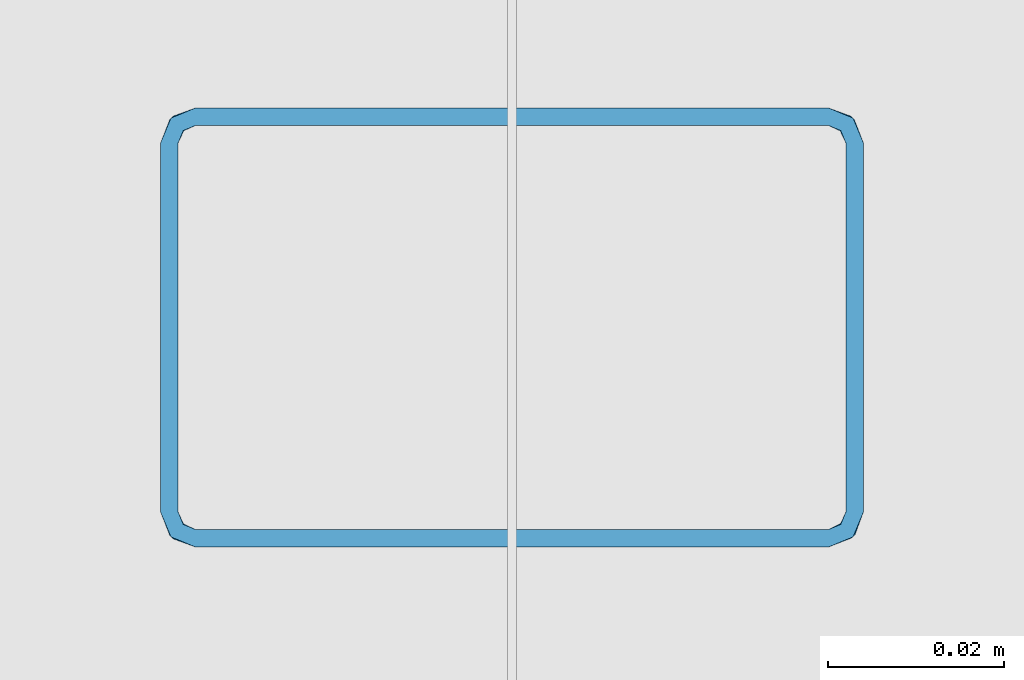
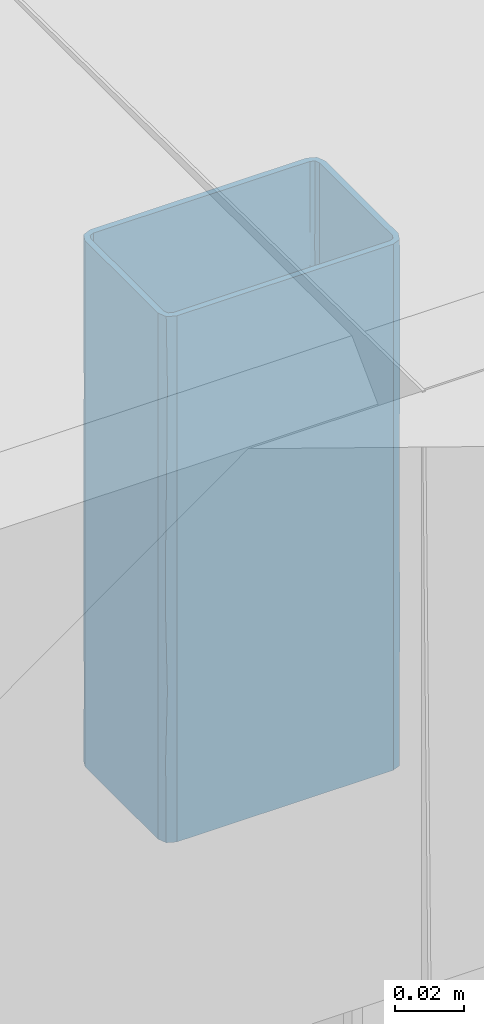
# One storey, part 150 of 186: 1 beam.
"""IFC4X3_ADD2 building model written with IfcOpenShell, lengths in millimetres."""

from ifc_helpers import new_model, si_unit, direction, frame, origin_with_axes, place, context, subcontext, project, spatial, polygons, element, save


model = new_model("IFC4X3_ADD2")

# Units and contexts
model_context = context("Model", 3, precision=1e-05, world=origin_with_axes(), true_north=direction((0.0, 1.0)))
body_context = subcontext(model_context, "Body", "Model", "MODEL_VIEW")
ifc_project = project(units=[si_unit("LENGTHUNIT", "METRE", prefix="MILLI"), si_unit("AREAUNIT", "SQUARE_METRE"), si_unit("VOLUMEUNIT", "CUBIC_METRE"), si_unit("PLANEANGLEUNIT", "RADIAN"), si_unit("TIMEUNIT", "SECOND"), si_unit("MASSUNIT", "GRAM")], contexts=[model_context])

# Site, building, storey
site_placement = place(None, origin_with_axes())
site = spatial("IfcSite", under=ifc_project, at=site_placement, Name="Site", CompositionType="ELEMENT")
building_placement = place(site_placement, origin_with_axes())
building = spatial("IfcBuilding", under=site, at=building_placement, Name="IFC Building Story")
storey_placement = place(building_placement, frame((0.0, 0.0, 4370.0), z_axis=(0.0, 0.0, 1.0), x_axis=(1.0, 0.0, 0.0)))
storey = spatial("IfcBuildingStorey", under=building, at=storey_placement, Name="ETAGE 10 (1)", Elevation=4370.0)

# Beam
beam_placement = place(storey_placement, frame((0.0, 0.0, -4370.0), z_axis=(0.0, 0.0, 1.0), x_axis=(1.0, 0.0, 0.0)))
element("IfcBeam", 1, at=beam_placement, inside=storey, Name="PS9", ObjectType="K50*80*2", context=body_context, shape_type="Tessellation", body=[
    polygons([(40004.18878334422, -236.027340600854, 7329.99958190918), (40006.18878334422, -236.027340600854, 7329.99958190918), (40003.60299690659, -237.4415541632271, 7329.99958190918), (40004.18878334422, -194.027340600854, 7329.99958190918), (40006.18878334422, -194.027340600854, 7329.99958190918), (40003.60299690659, -192.6131270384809, 7329.99958190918), (40005.01721046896, -191.1989134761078, 7329.99958190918), (40002.18878334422, -190.027340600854, 7329.99958190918), (40002.18878334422, -192.027340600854, 7329.99958190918), (39930.18878334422, -190.027340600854, 7329.99958190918), (39930.18878334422, -192.027340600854, 7329.99958190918), (39928.77456978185, -192.6131270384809, 7329.99958190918), (39927.36035621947, -191.1989134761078, 7329.99958190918), (39926.18878334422, -194.027340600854, 7329.99958190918), (39928.18878334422, -194.027340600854, 7329.99958190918), (39926.18878334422, -236.027340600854, 7329.99958190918), (39928.18878334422, -236.027340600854, 7329.99958190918), (39928.77456978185, -237.4415541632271, 7329.99958190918), (39927.36035621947, -238.8557677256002, 7329.99958190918), (39930.18878334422, -240.027340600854, 7329.99958190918), (39930.18878334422, -238.027340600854, 7329.99958190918), (40002.18878334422, -238.027340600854, 7329.99958190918), (40002.18878334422, -240.027340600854, 7329.99958190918), (40005.01721046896, -238.8557677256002, 7329.99958190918), (39928.18878334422, -236.027340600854, 7514.999581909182), (39926.18878334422, -236.027340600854, 7514.999581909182), (39928.77456978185, -237.4415541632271, 7514.999581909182), (39928.18878334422, -194.027340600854, 7514.999581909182), (39926.18878334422, -194.027340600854, 7514.999581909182), (39928.77456978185, -192.6131270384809, 7514.999581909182), (39927.36035621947, -191.1989134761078, 7514.999581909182), (39930.18878334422, -190.027340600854, 7514.999581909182), (39930.18878334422, -192.027340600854, 7514.999581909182), (40002.18878334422, -190.027340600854, 7514.999581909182), (40002.18878334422, -192.027340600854, 7514.999581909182), (40003.60299690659, -192.6131270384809, 7514.999581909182), (40005.01721046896, -191.1989134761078, 7514.999581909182), (40006.18878334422, -194.027340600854, 7514.999581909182), (40004.18878334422, -194.027340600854, 7514.999581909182), (40006.18878334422, -236.027340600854, 7514.999581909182), (40004.18878334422, -236.027340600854, 7514.999581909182), (40003.60299690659, -237.4415541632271, 7514.999581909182), (40005.01721046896, -238.8557677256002, 7514.999581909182), (40002.18878334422, -240.027340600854, 7514.999581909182), (40002.18878334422, -238.027340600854, 7514.999581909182), (39930.18878334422, -238.027340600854, 7514.999581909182), (39930.18878334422, -240.027340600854, 7514.999581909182), (39927.36035621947, -238.8557677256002, 7514.999581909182), (40002.18878334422, -240.027340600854, 7347.458101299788), (40002.18878334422, -240.027340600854, 7376.249581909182), (40002.18878334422, -240.027340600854, 7399.374580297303), (40002.18878334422, -240.027340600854, 7422.499581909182), (40002.18878334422, -240.027340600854, 7445.624583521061), (40002.18878334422, -240.027340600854, 7468.749581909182), (40002.18878334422, -240.027340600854, 7497.541062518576), (39930.18878334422, -240.027340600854, 7480.082537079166), (39930.18878334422, -240.027340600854, 7457.416627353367), (39930.18878334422, -240.027340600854, 7428.625150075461), (39930.18878334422, -240.027340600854, 7399.833672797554), (39930.18878334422, -240.027340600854, 7364.91662796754), (39927.50664382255, -238.9948526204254, 7468.749579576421), (39926.18878334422, -236.0273406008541, 7497.541058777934), (39926.18878334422, -236.027340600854, 7347.458105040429), (39927.24045339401, -238.7305517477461, 7359.346476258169), (39927.24702194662, -238.7376984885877, 7434.06207934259), (39926.18878334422, -236.027340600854, 7445.624581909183), (39927.24692705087, -238.7375954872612, 7408.867571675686), (39927.60943788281, -239.0846232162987, 7491.927046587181), (39926.18878334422, -236.027340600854, 7468.749581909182), (39927.619961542, -239.0934708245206, 7383.292348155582), (39926.18878334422, -236.027340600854, 7422.499581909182), (39926.18878334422, -236.027340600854, 7399.374581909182), (39926.18878334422, -236.027340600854, 7376.249581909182), (39926.18878334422, -194.027340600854, 7497.54105919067), (39926.18878334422, -194.027340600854, 7468.749581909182), (39926.18878334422, -194.027340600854, 7445.624581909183), (39926.18878334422, -194.027340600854, 7422.499581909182), (39926.18878334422, -194.027340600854, 7399.374581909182), (39926.18878334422, -194.027340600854, 7376.24958190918), (39926.18878334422, -194.027340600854, 7347.458104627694), (39927.24045312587, -191.3241297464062, 7485.652677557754), (39927.60943782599, -190.9700580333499, 7353.072114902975), (39927.50664381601, -191.059828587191, 7376.249580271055), (39930.18878334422, -190.027340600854, 7364.916627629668), (39930.18878334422, -190.027340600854, 7387.582536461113), (39927.24702197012, -191.3169826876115, 7410.937079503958), (39930.18878334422, -190.027340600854, 7480.082536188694), (39927.61996140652, -190.961210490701, 7461.706806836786), (39927.24692714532, -191.3170856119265, 7436.131585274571), (39930.18878334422, -190.027340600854, 7445.165491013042), (39930.18878334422, -190.027340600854, 7416.374013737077), (40002.18878334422, -190.027340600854, 7480.082536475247), (40002.18878334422, -190.027340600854, 7451.291059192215), (40002.18878334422, -190.027340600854, 7422.499581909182), (40002.18878334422, -190.027340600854, 7399.374582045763), (40002.18878334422, -190.027340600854, 7376.249582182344), (40002.18878334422, -190.027340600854, 7347.458104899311), (40006.18878334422, -194.027340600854, 7364.916627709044), (40006.18878334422, -194.027340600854, 7399.833673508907), (40005.02921849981, -191.2109727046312, 7387.812080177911), (40006.18878334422, -194.027340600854, 7480.082536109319), (40005.01721034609, -191.1989133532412, 7468.749577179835), (40004.77692155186, -190.9774978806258, 7491.874578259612), (40004.84066656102, -191.0327595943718, 7363.777071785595), (40005.15629016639, -191.3451953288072, 7443.870651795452), (40005.08104989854, -191.2642274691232, 7420.819318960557), (40006.18878334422, -194.027340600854, 7457.41662691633), (40006.18878334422, -194.027340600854, 7428.62515021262), (40006.18878334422, -236.027340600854, 7480.082537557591), (40006.18878334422, -236.027340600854, 7457.416627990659), (40006.18878334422, -236.027340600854, 7428.625151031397), (40006.18878334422, -236.027340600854, 7399.833672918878), (40006.18878334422, -236.027340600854, 7364.916627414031), (40005.15629539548, -238.7094800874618, 7468.749579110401), (40004.89199449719, -238.9756705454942, 7359.346476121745), (40004.89914124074, -238.9691019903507, 7434.062078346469), (40004.89903825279, -238.9691968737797, 7408.867571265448), (40005.24606596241, -238.6066860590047, 7491.927046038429), (40005.25491358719, -238.5961623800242, 7383.292347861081), (40003.54878165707, -237.4937663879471, 7406.329640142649), (40004.18878334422, -236.027340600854, 7404.069820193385), (40003.50360496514, -237.5344053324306, 7393.984068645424), (40003.76749020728, -237.2552187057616, 7444.932419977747), (40003.66606200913, -237.3755422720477, 7434.149878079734), (40002.18878334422, -238.027340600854, 7445.624581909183), (40003.54878164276, -237.4937664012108, 7474.139560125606), (40004.18878334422, -236.027340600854, 7482.65970072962), (40004.18878334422, -236.027340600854, 7471.879740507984), (40004.18878334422, -236.027340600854, 7461.099780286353), (40003.67568666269, -237.3649199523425, 7422.218561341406), (40002.18878334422, -238.027340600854, 7422.499581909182), (40002.18878334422, -238.027340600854, 7502.654542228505), (40003.60299687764, -237.4415541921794, 7498.047100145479), (40002.18878334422, -238.027340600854, 7490.309502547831), (40003.59435382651, -237.4501447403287, 7486.231226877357), (40004.18878334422, -236.027340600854, 7502.654542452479), (40004.18878334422, -236.027340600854, 7342.344621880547), (40003.60299692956, -237.4415541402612, 7348.517141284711), (40002.18878334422, -238.027340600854, 7342.344621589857), (40004.18878334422, -236.027340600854, 7416.414859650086), (40004.18878334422, -236.027340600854, 7367.034700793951), (40003.6494168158, -237.3935579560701, 7360.862180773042), (40003.60299694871, -237.4415541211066, 7373.20722027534), (40003.66144509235, -237.3805838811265, 7455.709798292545), (40002.18878334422, -238.027340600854, 7468.749581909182), (40004.18878334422, -236.027340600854, 7379.379740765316), (40004.18878334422, -236.027340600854, 7354.689661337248), (40002.18878334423, -238.027340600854, 7367.034700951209), (40002.18878334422, -238.027340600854, 7354.689661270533), (40004.18878334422, -236.027340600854, 7493.439660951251), (40002.18878334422, -238.027340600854, 7479.529542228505), (40004.18878334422, -236.027340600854, 7439.539859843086), (40004.18878334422, -236.027340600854, 7428.759899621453), (40004.18878334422, -236.027340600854, 7450.319820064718), (40002.18878334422, -238.027340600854, 7434.062081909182), (40002.18878334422, -238.027340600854, 7411.719621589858), (40002.18878334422, -238.027340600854, 7457.18708190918), (40002.18878334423, -238.027340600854, 7400.939661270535), (40004.18878334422, -236.027340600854, 7391.724780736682), (40003.74433814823, -237.2844202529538, 7383.68828868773), (40002.18878334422, -238.027340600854, 7390.15970095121), (40002.18878334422, -238.027340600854, 7379.379740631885), (40004.18878334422, -194.027340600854, 7502.654542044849), (40004.18878334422, -194.027340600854, 7490.309502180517), (40004.18878334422, -194.027340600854, 7479.529541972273), (40004.18878334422, -194.027340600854, 7468.749581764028), (40004.18878334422, -194.027340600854, 7457.187082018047), (40004.18878334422, -194.027340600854, 7445.624581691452), (40004.18878334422, -194.027340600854, 7434.062081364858), (40004.18878334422, -194.027340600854, 7422.499581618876), (40004.18878334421, -194.027340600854, 7410.937081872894), (40004.18878334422, -194.027340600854, 7399.374581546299), (40004.18878334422, -194.027340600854, 7387.812081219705), (40004.18878334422, -194.027340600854, 7376.249581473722), (40004.18878334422, -194.027340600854, 7365.469621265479), (40004.18878334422, -194.027340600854, 7354.689661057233), (40004.18878334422, -194.027340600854, 7342.344621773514), (40003.67282271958, -192.686584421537, 7439.843330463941), (40003.71292750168, -192.7323562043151, 7428.281218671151), (40003.50353653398, -192.520216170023, 7401.638518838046), (40003.67482290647, -192.6888016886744, 7416.718330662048), (40002.18878334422, -192.027340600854, 7405.459304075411), (40002.18878334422, -192.027340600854, 7342.344622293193), (40003.60299690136, -192.6131270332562, 7346.952061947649), (40002.18878334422, -192.027340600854, 7351.559502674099), (40003.65520916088, -192.6673423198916, 7360.079640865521), (40003.67736363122, -192.6916277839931, 7475.223688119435), (40003.66043435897, -192.6729982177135, 7462.968330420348), (40002.18878334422, -192.027340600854, 7428.584304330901), (40003.64326618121, -192.6545770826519, 7371.747873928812), (40002.18878334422, -192.027340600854, 7362.339462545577), (40002.18878334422, -192.027340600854, 7502.65454254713), (40002.18878334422, -192.027340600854, 7465.619423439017), (40003.60299692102, -192.6131270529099, 7496.482021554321), (40002.18878334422, -192.027340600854, 7490.30950318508), (40002.18878334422, -192.027340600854, 7453.274384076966), (40003.71248637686, -192.7318371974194, 7451.408622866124), (40002.18878334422, -192.027340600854, 7440.929343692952), (40003.54202665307, -192.5546788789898, 7389.289362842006), (40002.18878334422, -192.027340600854, 7394.679344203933), (40002.18878334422, -192.027340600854, 7383.899384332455), (40002.18878334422, -192.027340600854, 7373.119423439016), (40002.18878334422, -192.027340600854, 7477.964462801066), (40003.45863278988, -192.4821925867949, 7485.788710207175), (40002.18878334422, -192.027340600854, 7416.23926496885), (39930.18878334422, -192.027340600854, 7502.654543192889), (39930.18878334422, -192.027340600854, 7491.874581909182), (39930.18878334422, -192.027340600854, 7480.312081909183), (39930.18878334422, -192.027340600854, 7468.749581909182), (39930.18878334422, -192.027340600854, 7457.18708190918), (39930.18878334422, -192.027340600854, 7445.624581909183), (39930.18878334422, -192.027340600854, 7434.062081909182), (39930.18878334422, -192.027340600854, 7422.499581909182), (39930.18878334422, -192.027340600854, 7410.937081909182), (39930.18878334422, -192.027340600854, 7399.374581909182), (39930.18878334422, -192.027340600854, 7387.812081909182), (39930.18878334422, -192.027340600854, 7376.249581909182), (39930.18878334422, -192.027340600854, 7365.469620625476), (39930.18878334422, -192.027340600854, 7354.689660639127), (39930.18878334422, -192.027340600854, 7342.344620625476), (39928.84802718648, -192.5433012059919, 7439.843330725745), (39928.89379896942, -192.5031964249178, 7428.281218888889), (39928.68165892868, -192.7125873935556, 7401.63851911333), (39928.85024445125, -192.5413010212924, 7416.718330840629), (39928.18878334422, -194.027340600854, 7405.459303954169), (39928.90258956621, -192.4957709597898, 7485.918857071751), (39928.18878334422, -194.027340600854, 7342.344622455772), (39928.7745697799, -192.6131270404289, 7346.952061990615), (39928.18878334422, -194.027340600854, 7351.559502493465), (39928.18878334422, -194.027340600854, 7502.6545424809), (39928.82878506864, -192.5609147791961, 7360.079640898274), (39928.18878334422, -194.027340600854, 7465.619423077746), (39928.82346496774, -192.5658667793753, 7474.530830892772), (39928.18878334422, -194.027340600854, 7477.964462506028), (39928.70316488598, -192.6883343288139, 7459.446902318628), (39928.81601983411, -192.5728577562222, 7371.747873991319), (39928.18878334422, -194.027340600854, 7362.339462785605), (39928.18878334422, -194.027340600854, 7490.309503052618), (39928.77456979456, -192.6131270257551, 7497.264561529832), (39928.18878334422, -194.027340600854, 7428.584303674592), (39928.18878334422, -194.027340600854, 7453.274383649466), (39928.18878334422, -194.027340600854, 7440.929343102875), (39928.71612163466, -192.6740972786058, 7389.2893630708), (39928.18878334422, -194.027340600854, 7394.679343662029), (39928.18878334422, -194.027340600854, 7383.899383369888), (39928.18878334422, -194.027340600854, 7373.119423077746), (39928.18878334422, -194.027340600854, 7416.239264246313), (39928.18878334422, -236.027340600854, 7502.65454300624), (39928.18878334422, -236.027340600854, 7491.874582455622), (39928.18878334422, -236.027340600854, 7480.312082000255), (39928.18878334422, -236.027340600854, 7468.749581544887), (39928.18878334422, -236.027340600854, 7457.187081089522), (39928.18878334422, -236.027340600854, 7445.62458209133), (39928.18878334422, -236.027340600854, 7434.062083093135), (39928.18878334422, -236.027340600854, 7422.499582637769), (39928.18878334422, -236.027340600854, 7410.9370821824), (39928.18878334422, -236.0273406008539, 7399.374581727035), (39928.18878334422, -236.027340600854, 7387.812081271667), (39928.18878334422, -236.0273406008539, 7376.249582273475), (39928.18878334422, -236.027340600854, 7365.469621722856), (39928.18878334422, -236.027340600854, 7354.689661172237), (39928.18878334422, -236.027340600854, 7342.344622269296), (39928.70474393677, -237.3680967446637, 7439.843330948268), (39928.66463915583, -237.322324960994, 7428.28121908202), (39928.87403012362, -237.5344650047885, 7401.638519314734), (39928.70274375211, -237.3658794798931, 7416.718331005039), (39930.18878334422, -238.027340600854, 7405.459303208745), (39928.65721370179, -237.3135343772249, 7485.918857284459), (39930.18878334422, -238.027340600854, 7342.344622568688), (39928.77456978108, -237.4415541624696, 7346.952062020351), (39930.18878334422, -238.027340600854, 7351.559503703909), (39930.18878334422, -238.027340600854, 7502.654541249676), (39928.72235751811, -237.3873388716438, 7360.079640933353), (39930.18878334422, -238.027340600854, 7465.619421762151), (39928.7273095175, -237.3926589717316, 7474.530831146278), (39930.18878334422, -238.027340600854, 7477.964462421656), (39928.84977705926, -237.5129590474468, 7459.446902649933), (39928.73430049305, -237.4001041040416, 7371.747874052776), (39930.18878334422, -238.027340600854, 7362.339462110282), (39930.18878334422, -238.027340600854, 7490.309503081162), (39928.77456977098, -237.4415541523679, 7497.264561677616), (39930.18878334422, -238.027340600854, 7428.584302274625), (39930.18878334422, -238.027340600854, 7453.274383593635), (39930.18878334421, -238.027340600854, 7440.929342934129), (39928.83554001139, -237.500002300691, 7389.289363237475), (39930.18878334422, -238.027340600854, 7394.679342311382), (39930.18878334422, -238.027340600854, 7383.89938390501), (39930.18878334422, -238.027340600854, 7373.119423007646), (39930.18878334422, -238.027340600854, 7416.239264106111)], [[[1, 2, 3]], [[2, 1, 4]], [[4, 5, 2]], [[6, 5, 4]], [[7, 5, 6]], [[6, 8, 7]], [[6, 9, 8]], [[8, 9, 10]], [[11, 10, 9]], [[11, 12, 10]], [[10, 12, 13]], [[14, 13, 12]], [[14, 12, 15]], [[14, 15, 16]], [[17, 16, 15]], [[18, 16, 17]], [[16, 18, 19]], [[18, 20, 19]], [[21, 20, 18]], [[20, 21, 22]], [[3, 23, 22]], [[22, 23, 20]], [[3, 2, 24]], [[23, 3, 24]], [[25, 26, 27]], [[26, 25, 28]], [[28, 29, 26]], [[30, 29, 28]], [[31, 29, 30]], [[30, 32, 31]], [[30, 33, 32]], [[32, 33, 34]], [[35, 34, 33]], [[35, 36, 34]], [[34, 36, 37]], [[38, 37, 36]], [[38, 36, 39]], [[38, 39, 40]], [[41, 40, 39]], [[42, 40, 41]], [[40, 42, 43]], [[42, 44, 43]], [[45, 44, 42]], [[44, 45, 46]], [[27, 47, 46]], [[46, 47, 44]], [[27, 26, 48]], [[47, 27, 48]], [[55, 44, 47]], [[56, 57, 54]], [[54, 55, 47]], [[54, 47, 56]], [[57, 53, 54]], [[57, 58, 52]], [[57, 52, 53]], [[58, 59, 51]], [[58, 51, 52]], [[59, 60, 50]], [[59, 50, 51]], [[60, 20, 49]], [[60, 49, 50]], [[20, 23, 49]], [[61, 57, 56]], [[48, 26, 62]], [[63, 16, 19]], [[19, 20, 64]], [[61, 65, 57]], [[66, 65, 61]], [[67, 59, 58]], [[61, 68, 69]], [[61, 56, 68]], [[20, 60, 64]], [[67, 70, 59]], [[47, 48, 68]], [[64, 60, 70]], [[68, 62, 69]], [[58, 65, 67]], [[65, 66, 71]], [[61, 69, 66]], [[65, 71, 67]], [[57, 65, 58]], [[70, 72, 73]], [[72, 70, 67]], [[64, 73, 63]], [[60, 59, 70]], [[47, 68, 56]], [[62, 68, 48]], [[67, 71, 72]], [[73, 64, 70]], [[19, 64, 63]], [[62, 26, 29]], [[62, 29, 74]], [[74, 75, 69]], [[74, 69, 62]], [[75, 76, 66]], [[75, 66, 69]], [[76, 77, 71]], [[76, 71, 66]], [[77, 78, 72]], [[77, 72, 71]], [[78, 79, 73]], [[78, 73, 72]], [[79, 80, 63]], [[79, 63, 73]], [[80, 14, 16]], [[80, 16, 63]], [[31, 32, 81]], [[82, 79, 83]], [[84, 83, 85]], [[82, 80, 79]], [[83, 86, 85]], [[13, 14, 80]], [[74, 29, 31]], [[78, 86, 83]], [[81, 32, 87]], [[87, 88, 81]], [[89, 90, 91]], [[89, 88, 90]], [[10, 13, 82]], [[83, 84, 82]], [[91, 86, 89]], [[86, 78, 77]], [[83, 79, 78]], [[86, 77, 89]], [[85, 86, 91]], [[88, 76, 75]], [[76, 88, 89]], [[81, 75, 74]], [[87, 90, 88]], [[10, 82, 84]], [[80, 82, 13]], [[89, 77, 76]], [[75, 81, 88]], [[31, 81, 74]], [[87, 32, 34]], [[87, 34, 92]], [[92, 93, 90]], [[92, 90, 87]], [[93, 94, 91]], [[93, 91, 90]], [[95, 96, 85]], [[85, 91, 94]], [[85, 94, 95]], [[96, 84, 85]], [[97, 8, 10]], [[97, 10, 84]], [[84, 96, 97]], [[98, 5, 7]], [[99, 98, 100]], [[101, 102, 103]], [[7, 97, 104]], [[37, 103, 34]], [[94, 105, 106]], [[93, 102, 105]], [[96, 100, 104]], [[105, 102, 107]], [[38, 101, 103]], [[100, 106, 99]], [[7, 8, 97]], [[101, 107, 102]], [[105, 94, 93]], [[103, 102, 92]], [[93, 92, 102]], [[107, 108, 105]], [[105, 108, 106]], [[34, 103, 92]], [[103, 37, 38]], [[108, 99, 106]], [[96, 95, 100]], [[100, 95, 106]], [[95, 94, 106]], [[104, 100, 98]], [[7, 104, 98]], [[97, 96, 104]], [[101, 38, 40]], [[101, 40, 109]], [[109, 110, 107]], [[109, 107, 101]], [[110, 111, 108]], [[110, 108, 107]], [[111, 112, 99]], [[111, 99, 108]], [[112, 113, 98]], [[112, 98, 99]], [[113, 2, 5]], [[113, 5, 98]], [[114, 110, 109]], [[43, 44, 55]], [[49, 23, 24]], [[24, 2, 115]], [[114, 116, 110]], [[53, 116, 114]], [[117, 112, 111]], [[114, 118, 54]], [[114, 109, 118]], [[2, 113, 115]], [[117, 119, 112]], [[40, 43, 118]], [[115, 113, 119]], [[118, 55, 54]], [[111, 116, 117]], [[116, 53, 52]], [[114, 54, 53]], [[116, 52, 117]], [[110, 116, 111]], [[119, 51, 50]], [[51, 119, 117]], [[115, 50, 49]], [[113, 112, 119]], [[40, 118, 109]], [[55, 118, 43]], [[117, 52, 51]], [[50, 115, 119]], [[24, 115, 49]], [[120, 121, 122]], [[123, 124, 125]], [[126, 127, 128, 129]], [[124, 130, 131]], [[132, 42, 133]], [[134, 133, 135]], [[42, 41, 136]], [[137, 1, 3]], [[138, 3, 139]], [[120, 130, 140]], [[141, 142, 143]], [[144, 145, 126]], [[141, 143, 146]], [[137, 138, 147]], [[148, 142, 149]], [[42, 136, 133]], [[150, 133, 136]], [[3, 22, 139]], [[132, 45, 42]], [[3, 138, 137]], [[133, 134, 132]], [[150, 127, 135]], [[135, 126, 151]], [[150, 135, 133]], [[151, 126, 145]], [[152, 153, 124]], [[129, 154, 144]], [[124, 131, 155, 125]], [[130, 120, 156]], [[144, 154, 123]], [[157, 145, 144, 125]], [[129, 144, 126]], [[152, 123, 154]], [[158, 120, 122]], [[142, 138, 149]], [[142, 141, 147]], [[149, 138, 139]], [[159, 122, 121]], [[153, 130, 124]], [[159, 160, 122]], [[156, 120, 158]], [[121, 120, 140]], [[143, 160, 146]], [[161, 158, 122]], [[143, 162, 160]], [[148, 162, 143]], [[143, 142, 148]], [[138, 142, 147]], [[144, 123, 125]], [[124, 123, 152]], [[134, 135, 151]], [[135, 127, 126]], [[146, 160, 159]], [[162, 161, 160]], [[161, 122, 160]], [[156, 131, 130]], [[140, 130, 153]], [[136, 41, 39]], [[136, 39, 163]], [[163, 164, 150]], [[163, 150, 136]], [[164, 165, 127]], [[164, 127, 150]], [[165, 166, 128]], [[165, 128, 127]], [[166, 167, 129]], [[166, 129, 128]], [[167, 168, 154]], [[167, 154, 129]], [[168, 169, 152]], [[168, 152, 154]], [[169, 153, 152]], [[170, 171, 140]], [[140, 153, 169]], [[140, 169, 170]], [[171, 172, 121]], [[171, 121, 140]], [[172, 173, 159]], [[172, 159, 121]], [[173, 174, 146]], [[173, 146, 159]], [[174, 175, 141]], [[174, 141, 146]], [[175, 176, 147]], [[175, 147, 141]], [[176, 177, 137]], [[176, 137, 147]], [[177, 4, 1]], [[177, 1, 137]], [[178, 179, 169]], [[180, 181, 182]], [[163, 39, 36]], [[6, 4, 177]], [[183, 6, 184, 185]], [[176, 175, 186]], [[187, 188, 166]], [[166, 188, 167]], [[189, 179, 178]], [[190, 186, 175]], [[186, 190, 191]], [[183, 9, 6]], [[35, 192, 36]], [[187, 193, 188]], [[163, 194, 164]], [[195, 194, 192]], [[185, 186, 191]], [[36, 194, 163]], [[196, 197, 188]], [[169, 168, 178]], [[6, 177, 176, 184]], [[198, 189, 178]], [[186, 185, 184]], [[199, 200, 201]], [[176, 186, 184]], [[202, 191, 190, 201]], [[36, 192, 194]], [[190, 199, 201]], [[179, 181, 170]], [[197, 196, 198]], [[178, 168, 197]], [[193, 196, 188]], [[197, 167, 188]], [[187, 203, 193]], [[195, 204, 194]], [[165, 164, 204]], [[180, 199, 172]], [[172, 199, 174, 173]], [[199, 190, 174]], [[180, 200, 199]], [[205, 182, 181, 189]], [[171, 181, 180]], [[204, 195, 203]], [[187, 165, 204]], [[170, 181, 171]], [[180, 172, 171]], [[169, 179, 170]], [[181, 179, 189]], [[167, 197, 168]], [[198, 178, 197]], [[182, 200, 180]], [[187, 166, 165]], [[194, 204, 164]], [[187, 204, 203]], [[174, 190, 175]], [[192, 35, 33]], [[192, 33, 206]], [[206, 207, 195]], [[206, 195, 192]], [[207, 208, 203]], [[207, 203, 195]], [[208, 209, 193]], [[208, 193, 203]], [[209, 210, 196]], [[209, 196, 193]], [[210, 211, 198]], [[210, 198, 196]], [[211, 212, 189]], [[211, 189, 198]], [[213, 214, 205]], [[213, 205, 189]], [[189, 212, 213]], [[214, 182, 205]], [[214, 215, 200]], [[214, 200, 182]], [[215, 216, 201]], [[215, 201, 200]], [[216, 217, 202]], [[216, 202, 201]], [[217, 218, 191]], [[217, 191, 202]], [[218, 219, 185]], [[218, 185, 191]], [[219, 220, 183]], [[219, 183, 185]], [[220, 11, 9]], [[220, 9, 183]], [[221, 222, 212]], [[223, 224, 225]], [[208, 207, 226]], [[227, 15, 12]], [[227, 12, 228]], [[228, 229, 227]], [[30, 28, 230]], [[219, 218, 231]], [[232, 233, 234]], [[233, 235, 209]], [[208, 233, 209]], [[236, 231, 218]], [[231, 236, 237]], [[238, 226, 239]], [[206, 239, 207]], [[208, 226, 233]], [[206, 33, 30]], [[12, 11, 220, 228]], [[229, 231, 237]], [[30, 230, 239]], [[30, 239, 206]], [[239, 230, 238]], [[240, 222, 221]], [[221, 235, 241]], [[212, 211, 221]], [[242, 240, 221, 241]], [[228, 220, 219]], [[231, 229, 228]], [[243, 244, 245]], [[219, 231, 228]], [[246, 237, 236, 245]], [[241, 235, 232]], [[238, 234, 226]], [[222, 224, 213]], [[210, 209, 235, 211]], [[235, 221, 211]], [[236, 243, 245]], [[223, 243, 215]], [[215, 243, 217, 216]], [[243, 236, 217]], [[223, 244, 243]], [[247, 225, 224, 240]], [[214, 224, 223]], [[213, 224, 214]], [[223, 215, 214]], [[232, 235, 233]], [[212, 222, 213]], [[224, 222, 240]], [[234, 233, 226]], [[239, 226, 207]], [[225, 244, 223]], [[217, 236, 218]], [[230, 28, 25]], [[230, 25, 248]], [[248, 249, 238]], [[248, 238, 230]], [[249, 250, 234]], [[249, 234, 238]], [[250, 251, 232]], [[250, 232, 234]], [[251, 252, 241]], [[251, 241, 232]], [[252, 253, 242]], [[252, 242, 241]], [[253, 254, 240]], [[253, 240, 242]], [[255, 256, 247]], [[255, 247, 240]], [[240, 254, 255]], [[256, 225, 247]], [[256, 257, 244]], [[256, 244, 225]], [[257, 258, 245]], [[257, 245, 244]], [[258, 259, 246]], [[258, 246, 245]], [[259, 260, 237]], [[259, 237, 246]], [[260, 261, 229]], [[260, 229, 237]], [[261, 262, 227]], [[261, 227, 229]], [[262, 17, 15]], [[262, 15, 227]], [[263, 264, 254]], [[265, 266, 267]], [[250, 249, 268]], [[269, 21, 18]], [[269, 18, 270]], [[270, 271, 269]], [[27, 46, 272]], [[261, 260, 273]], [[274, 275, 276]], [[275, 277, 251]], [[250, 275, 251]], [[278, 273, 260]], [[273, 278, 279]], [[280, 268, 281]], [[248, 27, 281, 249]], [[250, 268, 275]], [[248, 25, 27]], [[262, 261, 270]], [[270, 18, 17]], [[270, 17, 262]], [[271, 273, 279]], [[27, 272, 281]], [[281, 272, 280]], [[282, 264, 263]], [[263, 277, 283]], [[254, 253, 263]], [[284, 282, 263, 283]], [[273, 271, 270]], [[285, 286, 287]], [[261, 273, 270]], [[288, 279, 278, 287]], [[283, 277, 274]], [[280, 276, 268]], [[264, 266, 255]], [[252, 251, 277, 253]], [[277, 263, 253]], [[278, 285, 287]], [[265, 285, 257]], [[257, 285, 259, 258]], [[285, 278, 259]], [[265, 286, 285]], [[289, 267, 266, 282]], [[256, 266, 265]], [[255, 266, 256]], [[265, 257, 256]], [[274, 277, 275]], [[254, 264, 255]], [[266, 264, 282]], [[276, 275, 268]], [[281, 268, 249]], [[267, 286, 265]], [[259, 278, 260]], [[272, 46, 45]], [[272, 45, 132]], [[132, 134, 280]], [[132, 280, 272]], [[134, 151, 276]], [[134, 276, 280]], [[151, 145, 274]], [[151, 274, 276]], [[145, 157, 283]], [[145, 283, 274]], [[157, 125, 284]], [[157, 284, 283]], [[125, 155, 282]], [[125, 282, 284]], [[131, 156, 289]], [[131, 289, 282]], [[282, 155, 131]], [[156, 158, 267]], [[156, 267, 289]], [[158, 161, 286]], [[158, 286, 267]], [[161, 162, 287]], [[161, 287, 286]], [[162, 148, 288]], [[162, 288, 287]], [[148, 279, 288]], [[148, 149, 271]], [[148, 271, 279]], [[149, 139, 269]], [[149, 269, 271]], [[139, 22, 21]], [[139, 21, 269]]]),
])

save(model, "model.ifc")
